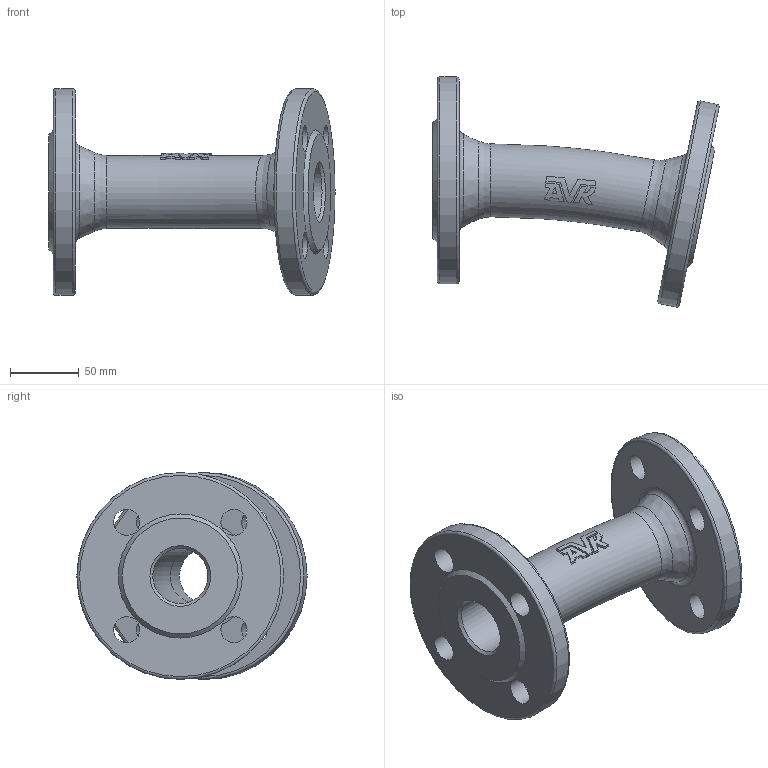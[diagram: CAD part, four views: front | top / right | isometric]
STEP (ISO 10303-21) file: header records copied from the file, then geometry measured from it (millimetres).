
FILE_DESCRIPTION (( 'STEP AP203' ), '1' );
FILE_NAME ('O_712_0110_DN40_1X_REV01.step', '2024-08-15T07:31:11', ( '' ), ( '' ), 'SwSTEP 2.0', 'SolidWorks 2022', '' );
FILE_SCHEMA (( 'CONFIG_CONTROL_DESIGN' ));
Length unit declared in the file: millimetre
Products named in the file (1): O_712_0110_DN40_1X_REV01
Bounding box: 207.48 x 167 x 150 mm (x, y, z)
Volume: 696968.8 mm3; surface area: 130596.5 mm2
Topology: 1 solids, 1 shells, 75 faces, 192 edges, 127 vertices
Faces by surface type: plane 41, cylinder 14, torus 12, cone 6, bspline 2
Full cylindrical faces by diameter (mm): 19 x8, 40 x2, 150 x2
Entity records: 3590 total; most frequent: CARTESIAN_POINT 1965, ORIENTED_EDGE 306, DIRECTION 261, EDGE_CURVE 153, EDGE_LOOP 129, VERTEX_POINT 116, AXIS2_PLACEMENT_3D 112, FACE_OUTER_BOUND 97
